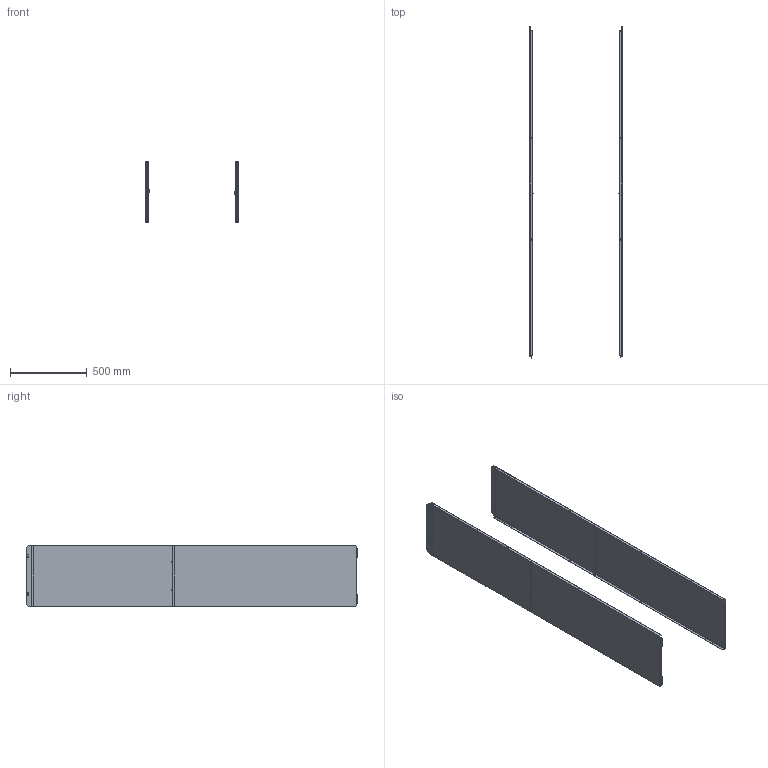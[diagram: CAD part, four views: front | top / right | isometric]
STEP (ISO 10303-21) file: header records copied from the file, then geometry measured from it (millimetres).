
FILE_DESCRIPTION((''),'2;1');
FILE_NAME('SIDE_PANELS_KIT_240129_ASM','2024-02-22T15:06:59',('juliahuynh'),(''),'CREO PARAMETRIC BY PTC INC, 2022281','CREO PARAMETRIC BY PTC INC, 2022281','');
FILE_SCHEMA(('CONFIG_CONTROL_DESIGN'));
Products named in the file (18): C32014_1_240129; C32015_1_240129; FILLET_WELD_ID_171_1_240129; FILLET_WELD_ID_493_1_1_240129; FILLET_WELD_ID_493_1_2_240129; FILLET_WELD_ID_493_1_240129_ASM; C32014_WLD_ASM_1_240129_ASM; 478517_1_240129; 406087_1_240129; C32014_PNT_ASM_1_240129_ASM; 429275__1_240129; 426241_BULK_1_240129; 413499_BULK_1_240129; C32014_KIT_ASM_1_240129_ASM; 403964_1_240129; C32014_ASM_ASM_1_240129_ASM; C32014_240129_ASM; SIDE_PANELS_KIT_240129_ASM
Assembly tree (20 placements, depth 7):
  SIDE_PANELS_KIT_240129_ASM
    C32014_240129_ASM  x2
      C32014_ASM_ASM_1_240129_ASM
        C32014_PNT_ASM_1_240129_ASM
          C32014_WLD_ASM_1_240129_ASM
            C32014_1_240129
            C32015_1_240129  x2
            FILLET_WELD_ID_171_1_240129
            FILLET_WELD_ID_493_1_240129_ASM
              FILLET_WELD_ID_493_1_1_240129
              FILLET_WELD_ID_493_1_2_240129
          478517_1_240129
          406087_1_240129
        C32014_KIT_ASM_1_240129_ASM
          429275__1_240129  x2
          426241_BULK_1_240129
          413499_BULK_1_240129
        403964_1_240129
Bounding box: 602.64 x 2163.76 x 399.74 mm (x, y, z)
Volume: 2338792.4 mm3; surface area: 7830463.4 mm2
Topology: 16 solids, 22 shells, 986 faces, 2580 edges, 1646 vertices
Faces by surface type: plane 562, cylinder 338, bspline 44, cone 34, torus 8
Entity records: 13870 total; most frequent: CARTESIAN_POINT 4866, ORIENTED_EDGE 1818, DIRECTION 1771, EDGE_CURVE 909, VECTOR 597, LINE 597, AXIS2_PLACEMENT_3D 587, VERTEX_POINT 574
